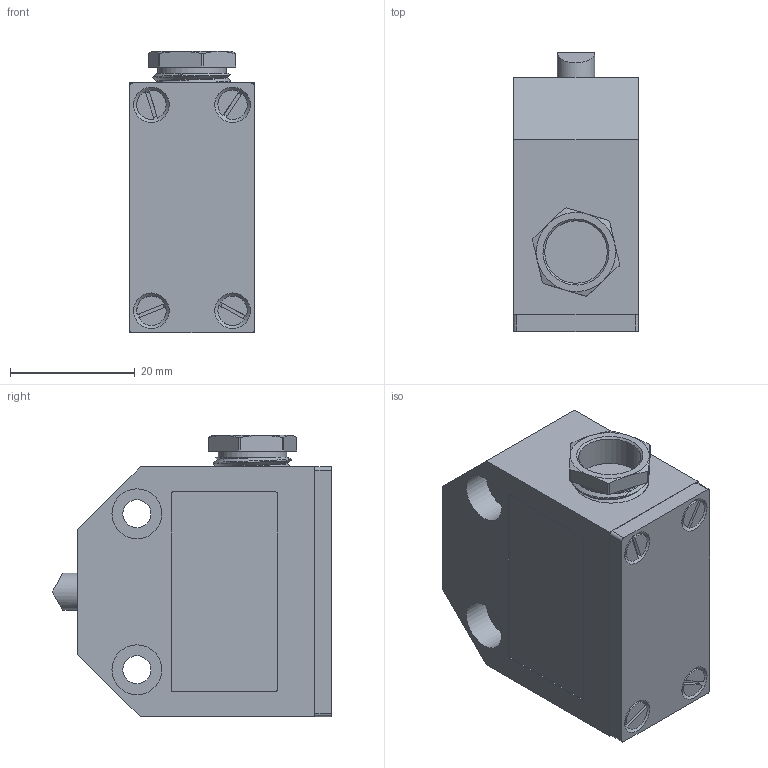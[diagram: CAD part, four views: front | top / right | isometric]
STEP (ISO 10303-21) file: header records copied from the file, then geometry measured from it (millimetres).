
FILE_DESCRIPTION(('Interruptor de Posicao Subminiatura Acionador Chanfrado Terminal Solda'),'2;1');
FILE_NAME('E:\WorkFolder\Serie\LQ\STEP\kp_lq_lq1d1s_step.stp','2012-05-21T09:03:04',('DIE'),('KAP'),'Autodesk Inventor 2011','Autodesk Inventor 2011','Direitos reservados. Proibido reproducao, cedencia ou revelacao de conteudo a terceiros, salvo com autorizacao. ');
FILE_SCHEMA(('AUTOMOTIVE_DESIGN { 1 0 10303 214 1 1 1 1 }'));
Length unit declared in the file: millimetre
Products named in the file (4): LQ1D1S_3D; LQ_Caixa_1S; LQ_Atuador_D; LQ_Tampa
Assembly tree (3 placements, depth 2):
  LQ1D1S_3D
    LQ_Caixa_1S
    LQ_Atuador_D
    LQ_Tampa
Bounding box: 20 x 44.75 x 45.06 mm (x, y, z)
Volume: 29359.2 mm3; surface area: 9389.9 mm2
Topology: 3 solids, 3 shells, 119 faces, 289 edges, 191 vertices
Faces by surface type: plane 65, cylinder 39, cone 12, bspline 3
Full cylindrical faces by diameter (mm): 4.5 x2, 6 x2, 8 x4, 10 x1, 11 x1
Entity records: 3990 total; most frequent: CARTESIAN_POINT 1061, DIRECTION 570, ORIENTED_EDGE 538, EDGE_CURVE 269, AXIS2_PLACEMENT_3D 222, VERTEX_POINT 186, EDGE_LOOP 153, VECTOR 126
